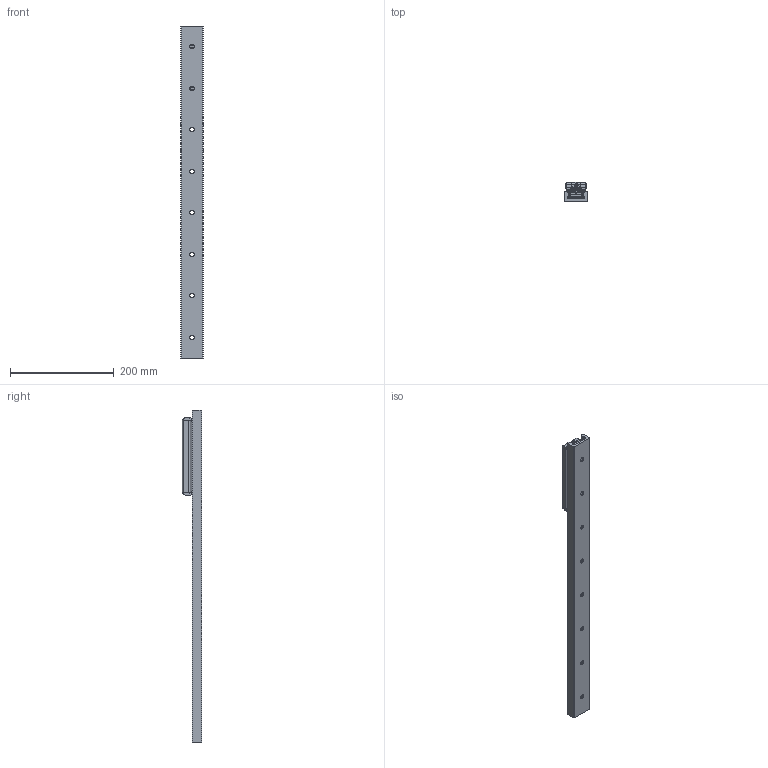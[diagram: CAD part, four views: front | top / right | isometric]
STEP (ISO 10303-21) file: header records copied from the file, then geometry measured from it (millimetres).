
FILE_DESCRIPTION( ( 'STEP AP214' ), '1' );
FILE_NAME( 'p:/temp/worker_54/temp/exporttempdir_3164_506_DexMY/format_1/TGV-00640_1_RV43G-3.stp', '2021-06-09T17:44:09', ( 'License CC BY-ND 4.0' ), ( 'CADENAS' ), ' ', 'PARTsolutions', ' ' );
FILE_SCHEMA( ( 'AUTOMOTIVE_DESIGN { 1 0 10303 214 1 1 1 1 }' ) );
Length unit declared in the file: millimetre
Products named in the file (6): TGV-00640/1/RV43G-3; _TGV43-0640-(3-1); _RVG43-3-slider; _RGNV43R; _RGAV43R; _WR43G-01
Assembly tree (7 placements, depth 2):
  TGV-00640/1/RV43G-3
    _TGV43-0640-(3-1)
    _RVG43-3-slider
    _RGNV43R  x2
    _RGAV43R
    _WR43G-01  x2
Bounding box: 43 x 37 x 640 mm (x, y, z)
Volume: 355312.1 mm3; surface area: 141604.9 mm2
Topology: 7 solids, 7 shells, 1057 faces, 2764 edges, 1803 vertices
Faces by surface type: plane 663, cylinder 304, cone 47, bspline 34, torus 9
Full cylindrical faces by diameter (mm): 1.76 x4, 3 x8, 6 x4, 6.647 x4, 6.8 x3, 8 x3, 8.5 x8, 11 x11, 15 x6, 15.5 x1, 18.98 x2, 19 x1, 31.4 x6
Entity records: 25053 total; most frequent: CARTESIAN_POINT 3990, DIRECTION 3347, ORIENTED_EDGE 3112, EDGE_CURVE 1556, AXIS2_PLACEMENT_3D 1270, VERTEX_POINT 1075, EDGE_LOOP 845, LINE 807
